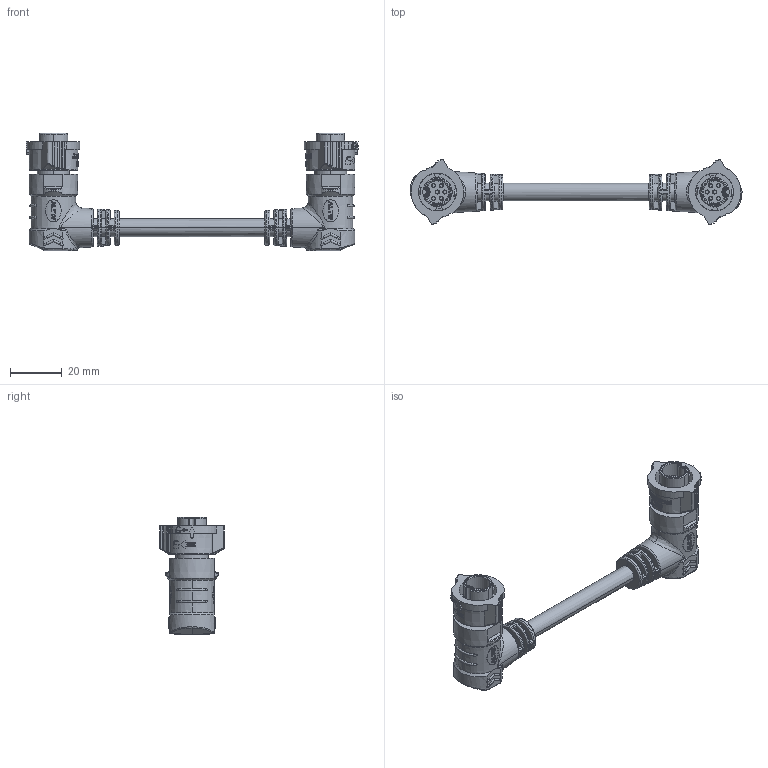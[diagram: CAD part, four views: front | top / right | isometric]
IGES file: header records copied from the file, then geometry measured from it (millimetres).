
Start section:  PTC IGES file: AB-BDXXBR-BDBR-QDXXX.igs
Global section: file name: AB-BDXXBR-BDBR-QDXXX.igs; native system: Creo Parametric by Parametric Technology Corporation; preprocessor: 2017170; author: L050004; organization: Unknown; date: 20200207.140223; units: millimetre
Bounding box: 127.84 x 25 x 45.15 mm (x, y, z)
Volume: 26623.8 mm3; surface area: 15393.4 mm2
Topology: 1 solids, 1 shells, 1904 faces, 5188 edges, 3394 vertices
Faces by surface type: bspline 942, extrusion 512, revolution 450
